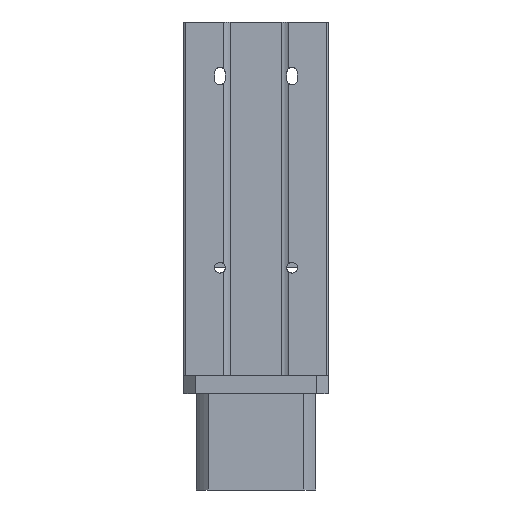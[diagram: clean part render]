
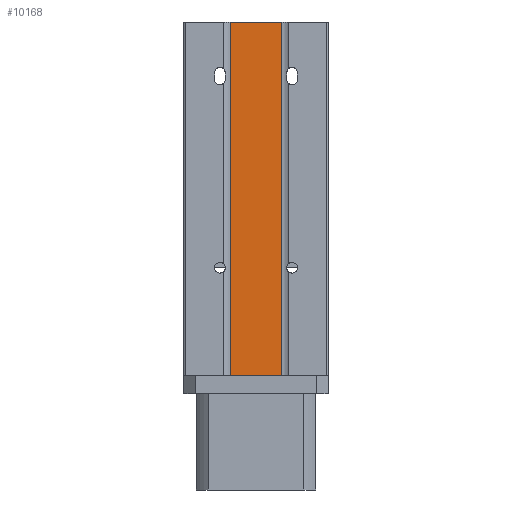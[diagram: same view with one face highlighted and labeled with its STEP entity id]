
A CAD part, front view. The second image highlights one B-rep face of the part: STEP entity #10168.
In plain terms, the highlighted planar face has unit normal (0, -1, 0).
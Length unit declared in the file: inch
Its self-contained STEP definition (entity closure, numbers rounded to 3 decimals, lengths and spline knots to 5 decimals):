
#381 = CARTESIAN_POINT ( 'NONE',  ( -0.36, 0.03, 0. ) ) ;
#506 = CARTESIAN_POINT ( 'NONE',  ( -0.36, 0.03, 4.90425 ) ) ;
#858 = EDGE_CURVE ( 'NONE', #13175, #3882, #10244, .T. ) ;
#1275 = EDGE_LOOP ( 'NONE', ( #8413, #6815, #7539, #8477 ) ) ;
#1438 = EDGE_CURVE ( 'NONE', #13175, #2559, #2262, .T. ) ;
#2021 = CARTESIAN_POINT ( 'NONE',  ( 0.36, 0.03, 4.90425 ) ) ;
#2262 = LINE ( 'NONE', #10435, #11094 ) ;
#2381 = LINE ( 'NONE', #3398, #13231 ) ;
#2559 = VERTEX_POINT ( 'NONE', #11737 ) ;
#3398 = CARTESIAN_POINT ( 'NONE',  ( 0.36, 0.03, 4.90425 ) ) ;
#3882 = VERTEX_POINT ( 'NONE', #2021 ) ;
#4406 = PLANE ( 'NONE',  #7787 ) ;
#5641 = VECTOR ( 'NONE', #12878, 39.37008 ) ;
#5951 = VERTEX_POINT ( 'NONE', #10304 ) ;
#6398 = DIRECTION ( 'NONE',  ( 0., 0., -1. ) ) ;
#6781 = LINE ( 'NONE', #381, #5641 ) ;
#6815 = ORIENTED_EDGE ( 'NONE', *, *, #10096, .F. ) ;
#7539 = ORIENTED_EDGE ( 'NONE', *, *, #858, .F. ) ;
#7546 = DIRECTION ( 'NONE',  ( 0., 1., 0. ) ) ;
#7787 = AXIS2_PLACEMENT_3D ( 'NONE', #8563, #7546, #11734 ) ;
#7849 = VECTOR ( 'NONE', #10456, 39.37008 ) ;
#8413 = ORIENTED_EDGE ( 'NONE', *, *, #11933, .T. ) ;
#8477 = ORIENTED_EDGE ( 'NONE', *, *, #1438, .T. ) ;
#8563 = CARTESIAN_POINT ( 'NONE',  ( -0.36, 0.03, 4.90425 ) ) ;
#9734 = FACE_OUTER_BOUND ( 'NONE', #1275, .T. ) ;
#10096 = EDGE_CURVE ( 'NONE', #3882, #5951, #2381, .T. ) ;
#10168 = ADVANCED_FACE ( 'NONE', ( #9734 ), #4406, .F. ) ;
#10244 = LINE ( 'NONE', #11357, #7849 ) ;
#10304 = CARTESIAN_POINT ( 'NONE',  ( 0.36, 0.03, 0. ) ) ;
#10435 = CARTESIAN_POINT ( 'NONE',  ( -0.36, 0.03, 4.90425 ) ) ;
#10456 = DIRECTION ( 'NONE',  ( 1., 0., 0. ) ) ;
#10897 = DIRECTION ( 'NONE',  ( 0., 0., -1. ) ) ;
#11094 = VECTOR ( 'NONE', #6398, 39.37008 ) ;
#11357 = CARTESIAN_POINT ( 'NONE',  ( -0.36, 0.03, 4.90425 ) ) ;
#11734 = DIRECTION ( 'NONE',  ( -1., 0., 0. ) ) ;
#11737 = CARTESIAN_POINT ( 'NONE',  ( -0.36, 0.03, 0. ) ) ;
#11933 = EDGE_CURVE ( 'NONE', #2559, #5951, #6781, .T. ) ;
#12878 = DIRECTION ( 'NONE',  ( 1., 0., 0. ) ) ;
#13175 = VERTEX_POINT ( 'NONE', #506 ) ;
#13231 = VECTOR ( 'NONE', #10897, 39.37008 ) ;
